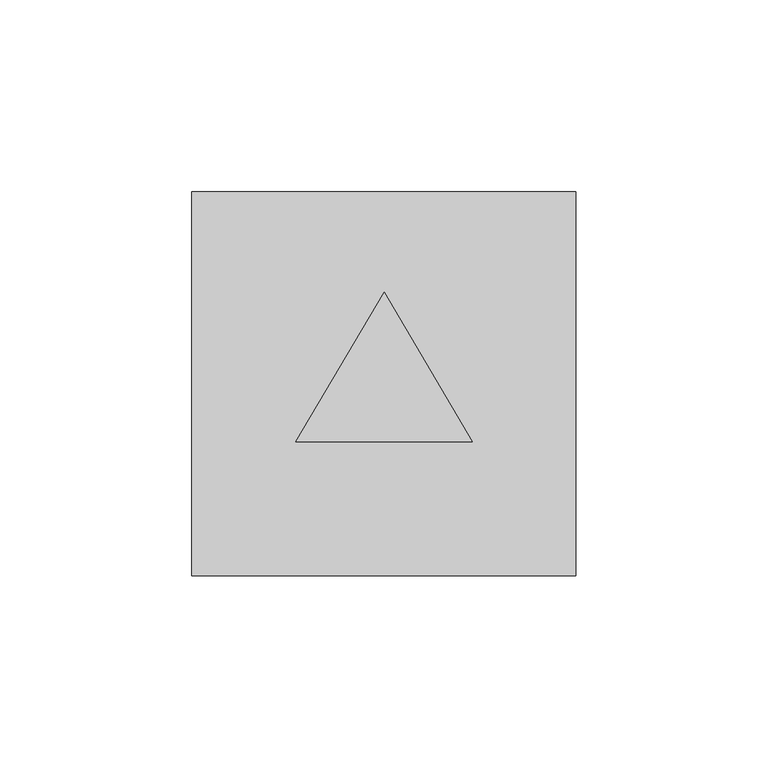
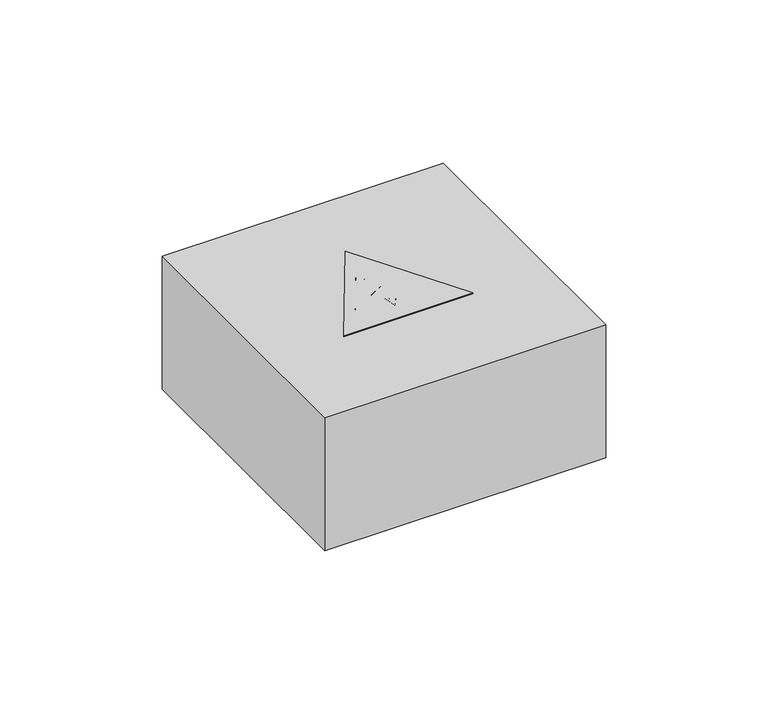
"""IFC4 building model written with IfcOpenShell, lengths in millimetres: proxy geometry, mS_EE_НГ_транзит : mS_EE_НГ_транзит."""

import ifcopenshell
import ifcopenshell.guid

model = None  # the IFC model being written
_history = None  # IfcOwnerHistory: only IFC2X3 demands one
_inside = {}  # id of a spatial element -> (the spatial element, [elements in it])
_under = {}  # id of a project, library or spatial element -> (it, [spatial elements below it])
_declared = {}  # id of a project -> (the project, [libraries it declares])
_typed = {}  # id of a type object -> (the type object, [elements of that type])
_made_of = {}  # id of a material, layer set ... -> (it, [elements and type objects made of it])


def new_model(schema):
    """Start an empty IFC model of exactly this schema.

    Asked for "IFC4X3", IfcOpenShell would pick the latest addendum, in which some entities
    have other attributes; the version numbers below select the first issue.
    IFC2X3 requires an IfcOwnerHistory on every rooted entity: one is made here for all.
    """
    global model, _history
    if schema == "IFC4X3":
        model = ifcopenshell.file(schema_version=(4, 3, 0, 0))
    else:
        model = ifcopenshell.file(schema=schema)
    _inside.clear()
    _under.clear()
    _declared.clear()
    _typed.clear()
    _made_of.clear()
    _history = None
    if model.schema == "IFC2X3":
        org = make("IfcOrganization", Name="unknown")
        user = make(
            "IfcPersonAndOrganization",
            ThePerson=make("IfcPerson", FamilyName="unknown"),
            TheOrganization=org,
        )
        app = make(
            "IfcApplication",
            ApplicationDeveloper=org,
            Version="unknown",
            ApplicationFullName="unknown",
            ApplicationIdentifier="unknown",
        )
        _history = make(
            "IfcOwnerHistory",
            OwningUser=user,
            OwningApplication=app,
            ChangeAction="ADDED",
            CreationDate=0,
        )
    return model


def make(cls, **values):
    """One entity of the class cls with the attributes given. An attribute that is None is left unset."""
    return model.create_entity(
        cls, **{name: value for name, value in values.items() if value is not None}
    )


def rooted(cls, **values):
    """An entity with a GlobalId (a new one), such as an element, a storey or a relation."""
    return make(cls, GlobalId=ifcopenshell.guid.new(), OwnerHistory=_history, **values)


def si_unit(unit_type, name, prefix=None):
    """IfcSIUnit, for example si_unit("LENGTHUNIT", "METRE", prefix="MILLI")."""
    return make("IfcSIUnit", UnitType=unit_type, Prefix=prefix, Name=name)


def assignment(units):
    """IfcUnitAssignment: the units of a project."""
    return None if units is None else make("IfcUnitAssignment", Units=units)


def point(xyz):
    """IfcCartesianPoint."""
    return None if xyz is None else make("IfcCartesianPoint", Coordinates=xyz)


def direction(xyz):
    """IfcDirection."""
    return None if xyz is None else make("IfcDirection", DirectionRatios=xyz)


def frame(location, z_axis=None, x_axis=None):
    """IfcAxis2Placement3D, a coordinate frame: its origin and axes. An axis left out is left unset."""
    return make(
        "IfcAxis2Placement3D",
        Location=point(location),
        Axis=direction(z_axis),
        RefDirection=direction(x_axis),
    )


def origin():
    """The frame at (0, 0, 0) with its axes left unset."""
    return frame((0.0, 0.0, 0.0))


def place(relative_to, where):
    """IfcLocalPlacement: puts the frame where relative to a parent placement (None: the world)."""
    return make(
        "IfcLocalPlacement", PlacementRelTo=relative_to, RelativePlacement=where
    )


def context(
    kind, dimensions, precision=None, world=None, true_north=None, identifier=None
):
    """IfcGeometricRepresentationContext, for example the 3D "Model" context."""
    return make(
        "IfcGeometricRepresentationContext",
        ContextIdentifier=identifier,
        ContextType=kind,
        CoordinateSpaceDimension=dimensions,
        Precision=precision,
        WorldCoordinateSystem=world,
        TrueNorth=true_north,
    )


def project(units=None, contexts=None):
    """IfcProject with its units and contexts."""
    return rooted(
        "IfcProject",
        Name="project",
        RepresentationContexts=contexts,
        UnitsInContext=assignment(units),
    )


def spatial(cls, under=None, at=None, **own):
    """A site, building, storey or space (cls), placed at a placement, below another one or the project."""
    s = rooted(cls, ObjectPlacement=at, **own)
    if under is not None:
        _under.setdefault(under.id(), (under, []))[1].append(s)
    return s


def polyline(points):
    """IfcPolyline through the points."""
    return make("IfcPolyline", Points=[point(p) for p in points])


def outline(outer, holes=None, kind="AREA"):
    """IfcArbitraryClosedProfileDef: a profile drawn as a closed curve; with holes, ...WithVoids."""
    if holes is None:
        return make("IfcArbitraryClosedProfileDef", ProfileType=kind, OuterCurve=outer)
    return make(
        "IfcArbitraryProfileDefWithVoids",
        ProfileType=kind,
        OuterCurve=outer,
        InnerCurves=holes,
    )


def extrude(swept, where, along, depth):
    """IfcExtrudedAreaSolid: the profile swept, set in the frame where, extruded along a direction by depth."""
    return make(
        "IfcExtrudedAreaSolid",
        SweptArea=swept,
        Position=where,
        ExtrudedDirection=direction(along),
        Depth=depth,
    )


def shape(context_of_items, identifier, shape_type, items):
    """IfcShapeRepresentation: the items that make up one representation, for example the "Body"."""
    return make(
        "IfcShapeRepresentation",
        ContextOfItems=context_of_items,
        RepresentationIdentifier=identifier,
        RepresentationType=shape_type,
        Items=items,
    )


def source(mapping_origin, context_of_items, identifier, shape_type, items):
    """IfcRepresentationMap: a shape defined once, which mapped items show again and again."""
    return make(
        "IfcRepresentationMap",
        MappingOrigin=mapping_origin,
        MappedRepresentation=shape(context_of_items, identifier, shape_type, items),
    )


def transform(
    local_origin,
    x_axis=None,
    y_axis=None,
    z_axis=None,
    scale=None,
    scale2=None,
    scale3=None,
    uniform=True,
):
    """IfcCartesianTransformationOperator3D, or its non-uniform kind. x_axis, y_axis, z_axis: its Axis1, 2, 3."""
    if uniform:
        return make(
            "IfcCartesianTransformationOperator3D",
            Axis1=direction(x_axis),
            Axis2=direction(y_axis),
            LocalOrigin=point(local_origin),
            Scale=scale,
            Axis3=direction(z_axis),
        )
    return make(
        "IfcCartesianTransformationOperator3DnonUniform",
        Axis1=direction(x_axis),
        Axis2=direction(y_axis),
        LocalOrigin=point(local_origin),
        Scale=scale,
        Axis3=direction(z_axis),
        Scale2=scale2,
        Scale3=scale3,
    )


def mapped(mapping_source, mapping_target):
    """IfcMappedItem: shows the shape of a source again, moved by a transform."""
    return make(
        "IfcMappedItem", MappingSource=mapping_source, MappingTarget=mapping_target
    )


def made_of(thing, what):
    """Note that an element or type object is made of a material, layer set ...; save() writes the relation."""
    if what is not None:
        _made_of.setdefault(what.id(), (what, []))[1].append(thing)
    return thing


def element(
    cls,
    number,
    at=None,
    inside=None,
    cuts=None,
    type_object=None,
    material=None,
    context=None,
    identifier="Body",
    shape_type=None,
    held_by="IfcProductDefinitionShape",
    body=None,
    shapes=None,
    **own,
):
    """One element of the class cls, such as IfcWall. Its Tag is "e" and its number.

    at: its placement. inside: the storey or other place that contains it. cuts: it is an
    opening in that element (IfcRelVoidsElement). A single representation is given by context,
    identifier, shape_type and body (its items); several are given by shapes. held_by: the class
    of the entity that holds the representations. save() writes the other relations.
    """
    e = rooted(cls, Tag="e%d" % number, ObjectPlacement=at, **own)
    if body is not None:
        shapes = [shape(context, identifier, shape_type, body)]
    if shapes is not None:
        e.Representation = make(held_by, Representations=shapes)
    if inside is not None:
        _inside.setdefault(inside.id(), (inside, []))[1].append(e)
    if cuts is not None:
        rooted(
            "IfcRelVoidsElement", RelatingBuildingElement=cuts, RelatedOpeningElement=e
        )
    if type_object is not None:
        _typed.setdefault(type_object.id(), (type_object, []))[1].append(e)
    return made_of(e, material)


def aggregate(whole, parts):
    """IfcRelAggregates: a whole, such as a stair, and the parts it consists of."""
    return rooted("IfcRelAggregates", RelatingObject=whole, RelatedObjects=parts)


def save(model, path):
    """Write the relations noted so far, then the file.

    IfcRelAggregates (storeys below a building ...), IfcRelContainedInSpatialStructure (elements
    in a storey), IfcRelDefinesByType, IfcRelAssociatesMaterial and IfcRelDeclares: one each for
    every whole, place, type object, material and project.
    """
    for whole, parts in _under.values():
        aggregate(whole, parts)
    for where, things in _inside.values():
        rooted(
            "IfcRelContainedInSpatialStructure",
            RelatedElements=things,
            RelatingStructure=where,
        )
    for kind, things in _typed.values():
        rooted("IfcRelDefinesByType", RelatedObjects=things, RelatingType=kind)
    for what, things in _made_of.values():
        rooted("IfcRelAssociatesMaterial", RelatedObjects=things, RelatingMaterial=what)
    for by, libraries in _declared.values():
        rooted("IfcRelDeclares", RelatingContext=by, RelatedDefinitions=libraries)
    model.write(path)


def electrical_equipment_e4ef6d0d(model_context):
    return source(origin(), model_context, "Body", "SweptSolid", [
        extrude(outline(polyline([(22.9265636, 14.989949), (-0.0285229, -23.8986682), (-22.9836095, 14.989949), (22.9265636, 14.989949)])), frame((0.0, 0.0, -50.2), z_axis=(0.0, 0.0, 1.0), x_axis=(1.0, 0.0, 0.0)), (0.0, 0.0, 1.0), 0.4),
        extrude(outline(polyline([(1.8044962, -10.5250696), (-1.4955038, -10.5250696), (2.2791111, -1.8071408), (-2.9170414, -4.8071408), (-0.0182681, 6.0112285), (-1.4276319, 5.0606005), (1.4242519, 9.2886922), (2.2577631, 4.5616149), (1.2293029, 5.7872861), (0.2337885, -1.7674533), (4.9514137, 0.8475691), (1.8044962, -10.5250696)])), frame((0.0, 0.0, -50.4), z_axis=(0.0, 0.0, 1.0), x_axis=(1.0, 0.0, 0.0)), (0.0, 0.0, 1.0), 0.8),
        extrude(outline(polyline([(-21.2035905, 13.989949), (21.2035905, 13.989949), (0.0, -21.9314278), (-21.2035905, 13.989949)]), holes=[polyline([(0.0, -17.210051), (17.0, 11.589949), (-17.0, 11.589949), (0.0, -17.210051)])]), frame((0.0, 0.0, -50.4), z_axis=(0.0, 0.0, 1.0), x_axis=(1.0, 0.0, 0.0)), (0.0, 0.0, 1.0), 0.8),
        extrude(outline(polyline([(-22.9265636, -14.989949), (0.0285229, 23.8986682), (22.9836095, -14.989949), (-22.9265636, -14.989949)])), frame((0.0, 0.0, -0.2), z_axis=(0.0, 0.0, 1.0), x_axis=(1.0, 0.0, 0.0)), (0.0, 0.0, 1.0), 0.4),
        extrude(outline(polyline([(-1.8044962, 10.5250696), (1.4955038, 10.5250696), (-2.2791111, 1.8071408), (2.9170414, 4.8071408), (0.0182681, -6.0112285), (1.4276319, -5.0606005), (-1.4242519, -9.2886922), (-2.2577631, -4.5616149), (-1.2293029, -5.7872861), (-0.2337885, 1.7674533), (-4.9514137, -0.8475691), (-1.8044962, 10.5250696)])), frame((0.0, 0.0, -0.4), z_axis=(0.0, 0.0, 1.0), x_axis=(1.0, 0.0, 0.0)), (0.0, 0.0, 1.0), 0.8),
        extrude(outline(polyline([(21.2035905, -13.989949), (-21.2035905, -13.989949), (0.0, 21.9314278), (21.2035905, -13.989949)]), holes=[polyline([(0.0, 17.210051), (-17.0, -11.589949), (17.0, -11.589949), (0.0, 17.210051)])]), frame((0.0, 0.0, -0.4), z_axis=(0.0, 0.0, 1.0), x_axis=(1.0, 0.0, 0.0)), (0.0, 0.0, 1.0), 0.8),
        extrude(outline(polyline([(50.0, 50.0), (50.0, -50.0), (-50.0, -50.0), (-50.0, 50.0), (50.0, 50.0)])), frame((0.0, 0.0, -50.0), z_axis=(0.0, 0.0, 1.0), x_axis=(1.0, 0.0, 0.0)), (0.0, 0.0, 1.0), 50.0),
    ])


if __name__ == "__main__":
    model = new_model("IFC4")
    model_context = context("Model", 3, world=origin())
    ifc_project = project(units=[si_unit("LENGTHUNIT", "METRE", prefix="MILLI")], contexts=[model_context])
    site = spatial("IfcSite", under=ifc_project)
    building = spatial("IfcBuilding", under=site)
    placement = place(None, origin())
    electrical_equipment_shape = electrical_equipment_e4ef6d0d(model_context)
    element("IfcBuildingElementProxy", 1, Name="mS_EE_НГ_транзит : mS_EE_НГ_транзит", ObjectType="mS_EE_НГ_транзит : mS_EE_НГ_транзит", at=placement, inside=building, context=model_context, shape_type="MappedRepresentation", body=[
        mapped(electrical_equipment_shape, transform((0.0, 0.0, 0.0), x_axis=(1.0, 0.0, 0.0), y_axis=(0.0, 1.0, 0.0), z_axis=(0.0, 0.0, 1.0))),
    ])
    save(model, "model.ifc")
